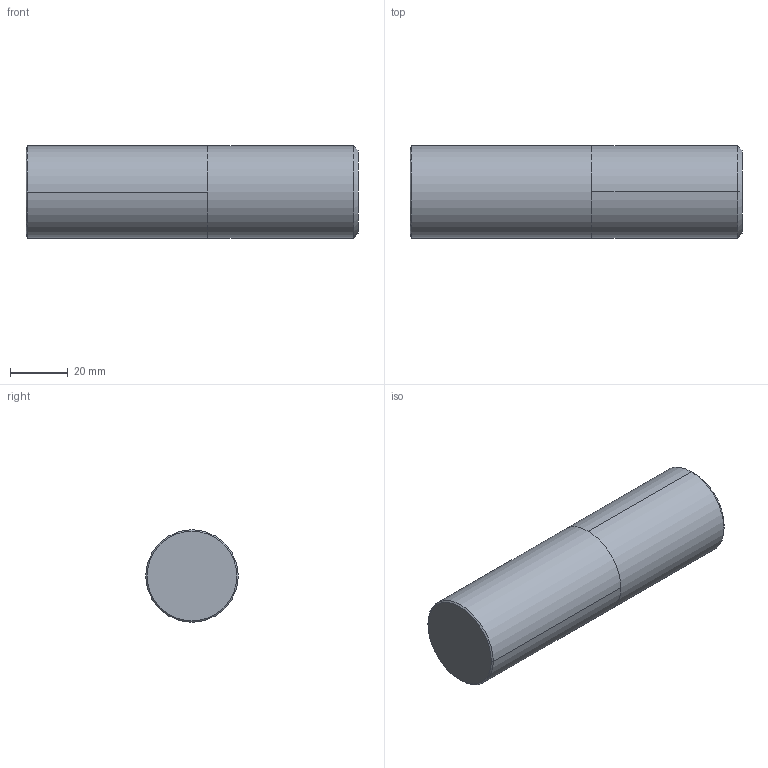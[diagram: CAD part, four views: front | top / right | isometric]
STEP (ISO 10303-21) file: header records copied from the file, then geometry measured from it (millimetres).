
FILE_DESCRIPTION (( 'STEP AP203' ), '1' );
FILE_NAME ('03-1775.STEP', '2021-09-10T07:26:10', ( 'USER' ), ( 'Hewlett-Packard Company' ), 'SwSTEP 2.0', 'SolidWorks 2014', '' );
FILE_SCHEMA (( 'CONFIG_CONTROL_DESIGN' ));
Length unit declared in the file: millimetre
Products named in the file (1): 03-1775
Bounding box: 115 x 32 x 32 mm (x, y, z)
Volume: 92366.5 mm3; surface area: 14657 mm2
Topology: 2 solids, 2 shells, 12 faces, 20 edges, 12 vertices
Faces by surface type: cylinder 4, cone 4, plane 4
Entity records: 359 total; most frequent: DIRECTION 58, CARTESIAN_POINT 45, ORIENTED_EDGE 40, AXIS2_PLACEMENT_3D 25, EDGE_CURVE 20, VERTEX_POINT 12, CIRCLE 12, EDGE_LOOP 12
